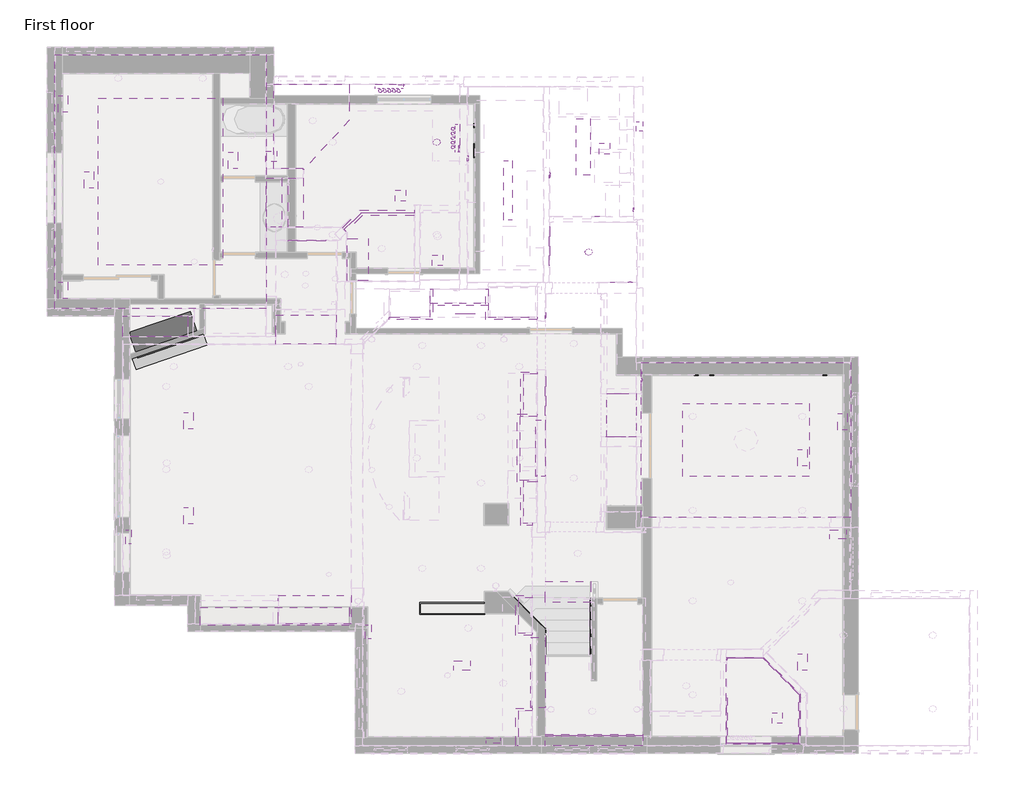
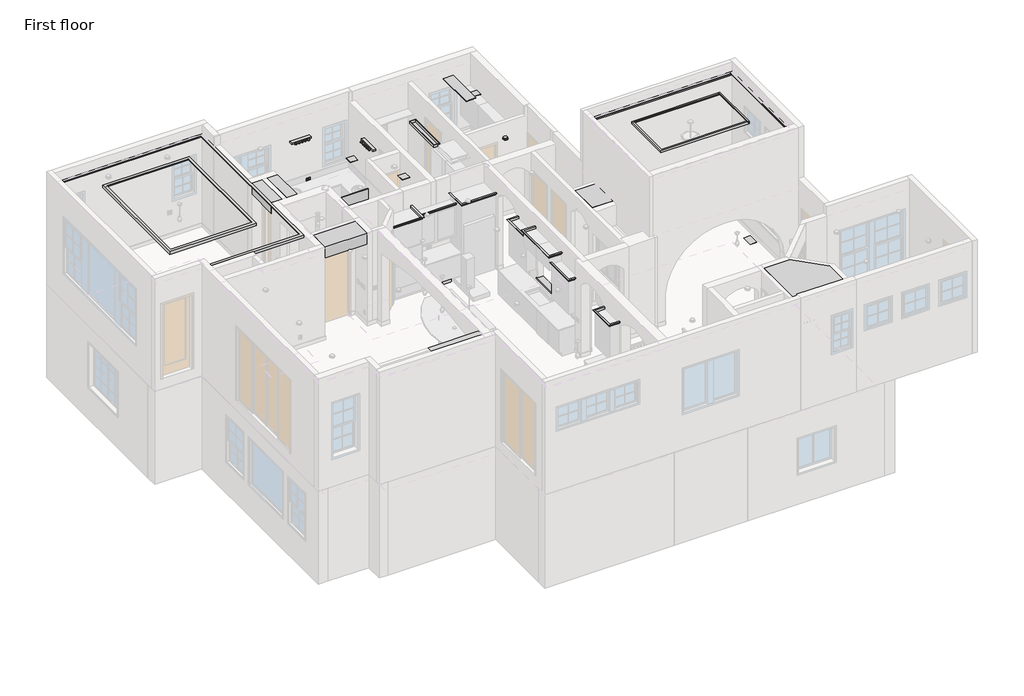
# One storey, part 14 of 14: 81 proxies, 5 light fixtures.
"""IFC4 building model written with IfcOpenShell, lengths in millimetres."""

from ifc_helpers import new_model, si_unit, origin, place, context, project, spatial, transform, mapped, element, save
from components import generic_models_7bf03cc9, ceiling_duct_ceiling_duct_6f59f6e1, ceiling_duct_ceiling_duct_531b3f96, floor_duct_floor_duct_57648b96, floor_duct_floor_duct_5fbc8d91, generic_models_10_generic_models_10_af9f11de, generic_models_11_generic_models_11_a00f24be, generic_models_12_generic_models_12_cab37b76, generic_models_14_generic_models_5_a837a2eb, generic_models_15_generic_models_15_c705246f, generic_models_16_generic_models_16_883335f0, generic_models_20_generic_models_20_f8ca420b, generic_models_21_generic_models_20_657df800, generic_models_23_generic_models_16_b66dae09, generic_models_24_generic_models_24_3cd4313f, generic_models_25_generic_models_23_44e64f11, generic_models_28_generic_models_28_aea4ba27, generic_models_29_generic_models_28_72c6995c, generic_models_3_generic_models_3_e1b9b177, generic_models_30_generic_models_30_4a146c5c, generic_models_31_generic_models_28_6c951476, generic_models_32_generic_models_28_5d53510e, generic_models_33_generic_models_28_1d8a5abb, generic_models_34_generic_models_28_84c8c996, generic_models_35_generic_models_28_821b1100, generic_models_36_generic_models_28_87b564ec, generic_models_37_generic_models_37_c2957d25, generic_models_38_generic_models_38_c5c5c476, generic_models_4_generic_models_4_8fbb5af6, generic_models_47_generic_models_5_366e64f6, generic_models_52_generic_models_52_cda593ee, generic_models_56_generic_models_56_30653bff, generic_models_59_generic_models_59_f5cc367f, generic_models_60_generic_models_59_80c58292, generic_models_61_generic_models_61_dfe6170b, generic_models_64_generic_models_64_f3553388, generic_models_65_generic_models_65_03acef7a, generic_models_66_generic_models_66_cc2a3090, generic_models_67_generic_models_67_35788e7a, generic_models_68_generic_models_68_d109ae78, generic_models_7_generic_models_7_fadefc11, generic_models_8_generic_models_8_df820373, generic_models_9_generic_models_9_1c03b8d7, generic_01_generic_01_19449866, generic_02_generic_02_b9079739, generic_02_generic_02_cc76fdf7, generic_02_generic_02_913d4e3a, switch_1_switch_1_61bf59a5, switch_15_switch_15_8019c705, switch_3_switch_3_40792009, switch_4_switch_4_f86bb9e3, switch_6_switch_6_ad3d04ee, wall_duct_wall_duct_054670dc, wall_duct_wall_duct_2bb27d55, wall_duct_wall_duct_0e01770b, wall_duct_wall_duct_ddb6b5c5, light_8_5fd1197a, lighting_fixtures_ceiling_linear_light_11_ba4d53ce, m_recessed_lamp_round_led_light_2_4ee42974

model = new_model("IFC4")

# Units and contexts
model_context = context("Model", 3, world=origin())
ifc_project = project(units=[si_unit("LENGTHUNIT", "METRE", prefix="MILLI")], contexts=[model_context])

# Site, building, storey
site = spatial("IfcSite", under=ifc_project)
building = spatial("IfcBuilding", under=site)
storey = spatial("IfcBuildingStorey", under=building, Name="First floor", Elevation=0.0)

# Proxies
placement = place(None, origin())
generic_models_shape = generic_models_7bf03cc9(model_context)
element("IfcBuildingElementProxy", 1, Name="Wall void 1  : Wall void 1 ", ObjectType="Wall void 1  : Wall void 1 ", at=placement, inside=storey, context=model_context, shape_type="MappedRepresentation", body=[
    mapped(generic_models_shape, transform((6115.05, 13336.8947939, 4191.0), x_axis=(0.0, 1.0, 0.0), y_axis=(-1.0, 0.0, 0.0), z_axis=(0.0, 0.0, 1.0))),
])
ceiling_duct_ceiling_duct_shape = ceiling_duct_ceiling_duct_6f59f6e1(model_context)
element("IfcBuildingElementProxy", 2, Name="Ceiling Duct : Ceiling Duct", ObjectType="Ceiling Duct : Ceiling Duct", at=placement, inside=storey, context=model_context, shape_type="MappedRepresentation", body=[
    mapped(ceiling_duct_ceiling_duct_shape, transform((9563.1, 6223.0, 2565.4), x_axis=(0.0, 1.0, 0.0), y_axis=(-1.0, 0.0, 0.0), z_axis=(0.0, 0.0, 1.0))),
])
element("IfcBuildingElementProxy", 3, Name="Ceiling Duct : Ceiling Duct", ObjectType="Ceiling Duct : Ceiling Duct", at=placement, inside=storey, context=model_context, shape_type="MappedRepresentation", body=[
    mapped(ceiling_duct_ceiling_duct_shape, transform((9563.1, 1803.4, 2565.4), x_axis=(0.0, 1.0, 0.0), y_axis=(-1.0, 0.0, 0.0), z_axis=(0.0, 0.0, 1.0))),
])
element("IfcBuildingElementProxy", 4, Name="Ceiling Duct : Ceiling Duct", ObjectType="Ceiling Duct : Ceiling Duct", at=placement, inside=storey, context=model_context, shape_type="MappedRepresentation", body=[
    mapped(ceiling_duct_ceiling_duct_shape, transform((-3708.4, 7023.1, 2565.4), x_axis=(0.0, 1.0, 0.0), y_axis=(-1.0, 0.0, 0.0), z_axis=(0.0, 0.0, 1.0))),
])
element("IfcBuildingElementProxy", 5, Name="Ceiling Duct : Ceiling Duct", ObjectType="Ceiling Duct : Ceiling Duct", at=placement, inside=storey, context=model_context, shape_type="MappedRepresentation", body=[
    mapped(ceiling_duct_ceiling_duct_shape, transform((-3708.4, 4965.7, 2565.4), x_axis=(0.0, 1.0, 0.0), y_axis=(-1.0, 0.0, 0.0), z_axis=(0.0, 0.0, 1.0))),
])
element("IfcBuildingElementProxy", 6, Name="Ceiling Duct : Ceiling Duct", ObjectType="Ceiling Duct : Ceiling Duct", at=placement, inside=storey, context=model_context, shape_type="MappedRepresentation", body=[
    mapped(ceiling_duct_ceiling_duct_shape, transform((-5854.7, 12230.1, 2565.4), x_axis=(0.0, 1.0, 0.0), y_axis=(-1.0, 0.0, 0.0), z_axis=(0.0, 0.0, 1.0))),
])
element("IfcBuildingElementProxy", 7, Name="Ceiling Duct : Ceiling Duct", ObjectType="Ceiling Duct : Ceiling Duct", at=placement, inside=storey, context=model_context, shape_type="MappedRepresentation", body=[
    mapped(ceiling_duct_ceiling_duct_shape, transform((-2743.2, 12649.2, 2565.4), x_axis=(0.0, 1.0, 0.0), y_axis=(-1.0, 0.0, 0.0), z_axis=(0.0, 0.0, 1.0))),
])
element("IfcBuildingElementProxy", 8, Name="Ceiling Duct : Ceiling Duct", ObjectType="Ceiling Duct : Ceiling Duct", at=placement, inside=storey, context=model_context, shape_type="MappedRepresentation", body=[
    mapped(ceiling_duct_ceiling_duct_shape, transform((2489.2, 1797.05, 2565.4), x_axis=(-1.0, 0.0, 0.0), y_axis=(0.0, -1.0, 0.0), z_axis=(0.0, 0.0, 1.0))),
])
ceiling_duct_ceiling_duct_2_shape = ceiling_duct_ceiling_duct_531b3f96(model_context)
element("IfcBuildingElementProxy", 9, Name="Ceiling Duct : Ceiling Duct", ObjectType="Ceiling Duct : Ceiling Duct", at=placement, inside=storey, context=model_context, shape_type="MappedRepresentation", body=[
    mapped(ceiling_duct_ceiling_duct_2_shape, transform((-1930.4, 12801.6, 2565.4), x_axis=(0.0, 1.0, 0.0), y_axis=(-1.0, 0.0, 0.0), z_axis=(0.0, 0.0, 1.0))),
])
element("IfcBuildingElementProxy", 10, Name="Ceiling Duct : Ceiling Duct", ObjectType="Ceiling Duct : Ceiling Duct", at=placement, inside=storey, context=model_context, shape_type="MappedRepresentation", body=[
    mapped(ceiling_duct_ceiling_duct_2_shape, transform((863.6, 12179.1947939, 6299.2), x_axis=(1.0, 0.0, 0.0), y_axis=(0.0, 1.0, 0.0), z_axis=(0.0, 0.0, 1.0))),
])
element("IfcBuildingElementProxy", 11, Name="Ceiling Duct : Ceiling Duct", ObjectType="Ceiling Duct : Ceiling Duct", at=placement, inside=storey, context=model_context, shape_type="MappedRepresentation", body=[
    mapped(ceiling_duct_ceiling_duct_2_shape, transform((1663.7, 10782.1947939, 6299.2), x_axis=(1.0, 0.0, 0.0), y_axis=(0.0, 1.0, 0.0), z_axis=(0.0, 0.0, 1.0))),
])
floor_duct_floor_duct_shape = floor_duct_floor_duct_57648b96(model_context)
element("IfcBuildingElementProxy", 12, Name="Floor Duct : Floor Duct", ObjectType="Floor Duct : Floor Duct", at=placement, inside=storey, context=model_context, shape_type="MappedRepresentation", body=[
    mapped(floor_duct_floor_duct_shape, transform((-6318.25, 14046.193904, 3251.2), x_axis=(0.0, 1.0, 0.0), y_axis=(-1.0, 0.0, 0.0), z_axis=(0.0, 0.0, 1.0))),
])
element("IfcBuildingElementProxy", 13, Name="Floor Duct : Floor Duct", ObjectType="Floor Duct : Floor Duct", at=placement, inside=storey, context=model_context, shape_type="MappedRepresentation", body=[
    mapped(floor_duct_floor_duct_shape, transform((-6318.25, 10020.3, 3251.2), x_axis=(0.0, 1.0, 0.0), y_axis=(-1.0, 0.0, 0.0), z_axis=(0.0, 0.0, 1.0))),
])
floor_duct_floor_duct_2_shape = floor_duct_floor_duct_5fbc8d91(model_context)
element("IfcBuildingElementProxy", 14, Name="Floor Duct : Floor Duct", ObjectType="Floor Duct : Floor Duct", at=placement, inside=storey, context=model_context, shape_type="MappedRepresentation", body=[
    mapped(floor_duct_floor_duct_2_shape, transform((2984.5, 279.4, 3251.2), x_axis=(1.0, 0.0, 0.0), y_axis=(0.0, 1.0, 0.0), z_axis=(0.0, 0.0, 1.0))),
])
element("IfcBuildingElementProxy", 15, Name="Floor Duct : Floor Duct", ObjectType="Floor Duct : Floor Duct", at=placement, inside=storey, context=model_context, shape_type="MappedRepresentation", body=[
    mapped(floor_duct_floor_duct_2_shape, transform((279.4, 2628.9, 3251.2), x_axis=(0.0, 1.0, 0.0), y_axis=(-1.0, 0.0, 0.0), z_axis=(0.0, 0.0, 1.0))),
])
generic_models_10_generic_models_10_shape = generic_models_10_generic_models_10_af9f11de(model_context)
element("IfcBuildingElementProxy", 16, Name="Generic Models 10 : Generic Models 10", ObjectType="Generic Models 10 : Generic Models 10", at=placement, inside=storey, context=model_context, shape_type="MappedRepresentation", body=[
    mapped(generic_models_10_generic_models_10_shape, transform((0.0, 0.0, 0.0), x_axis=(1.0, 0.0, 0.0), y_axis=(0.0, 1.0, 0.0), z_axis=(0.0, 0.0, 1.0))),
])
generic_models_11_generic_models_11_shape = generic_models_11_generic_models_11_a00f24be(model_context)
element("IfcBuildingElementProxy", 17, Name="Generic Models 11 : Generic Models 11", ObjectType="Generic Models 11 : Generic Models 11", at=placement, inside=storey, context=model_context, shape_type="MappedRepresentation", body=[
    mapped(generic_models_11_generic_models_11_shape, transform((0.0, 0.0, 0.0), x_axis=(1.0, 0.0, 0.0), y_axis=(0.0, 1.0, 0.0), z_axis=(0.0, 0.0, 1.0))),
])
generic_models_12_generic_models_12_shape = generic_models_12_generic_models_12_cab37b76(model_context)
element("IfcBuildingElementProxy", 18, Name="Generic Models 12 : Generic Models 12", ObjectType="Generic Models 12 : Generic Models 12", at=placement, inside=storey, context=model_context, shape_type="MappedRepresentation", body=[
    mapped(generic_models_12_generic_models_12_shape, transform((0.0, 0.0, 0.0), x_axis=(1.0, 0.0, 0.0), y_axis=(0.0, 1.0, 0.0), z_axis=(0.0, 0.0, 1.0))),
])
generic_models_14_generic_models_5_shape = generic_models_14_generic_models_5_a837a2eb(model_context)
element("IfcBuildingElementProxy", 19, Name="Generic Models 14 : Generic Models 5", ObjectType="Generic Models 14 : Generic Models 5", at=placement, inside=storey, context=model_context, shape_type="MappedRepresentation", body=[
    mapped(generic_models_14_generic_models_5_shape, transform((0.0, 0.0, 0.0), x_axis=(1.0, 0.0, 0.0), y_axis=(0.0, 1.0, 0.0), z_axis=(0.0, 0.0, 1.0))),
])
generic_models_15_generic_models_15_shape = generic_models_15_generic_models_15_c705246f(model_context)
element("IfcBuildingElementProxy", 20, Name="Generic Models 15 : Generic Models 15", ObjectType="Generic Models 15 : Generic Models 15", at=placement, inside=storey, context=model_context, shape_type="MappedRepresentation", body=[
    mapped(generic_models_15_generic_models_15_shape, transform((0.0, 0.0, 0.0), x_axis=(1.0, 0.0, 0.0), y_axis=(0.0, 1.0, 0.0), z_axis=(0.0, 0.0, 1.0))),
])
generic_models_16_generic_models_16_shape = generic_models_16_generic_models_16_883335f0(model_context)
element("IfcBuildingElementProxy", 21, Name="Generic Models 16 : Generic Models 16", ObjectType="Generic Models 16 : Generic Models 16", at=placement, inside=storey, context=model_context, shape_type="MappedRepresentation", body=[
    mapped(generic_models_16_generic_models_16_shape, transform((0.0, 0.0, 0.0), x_axis=(1.0, 0.0, 0.0), y_axis=(0.0, 1.0, 0.0), z_axis=(0.0, 0.0, 1.0))),
])
generic_models_20_generic_models_20_shape = generic_models_20_generic_models_20_f8ca420b(model_context)
element("IfcBuildingElementProxy", 22, Name="Generic Models 20 : Generic Models 20", ObjectType="Generic Models 20 : Generic Models 20", at=placement, inside=storey, context=model_context, shape_type="MappedRepresentation", body=[
    mapped(generic_models_20_generic_models_20_shape, transform((0.0, 0.0, 0.0), x_axis=(1.0, 0.0, 0.0), y_axis=(0.0, 1.0, 0.0), z_axis=(0.0, 0.0, 1.0))),
])
generic_models_21_generic_models_20_shape = generic_models_21_generic_models_20_657df800(model_context)
element("IfcBuildingElementProxy", 23, Name="Generic Models 21 : Generic Models 20", ObjectType="Generic Models 21 : Generic Models 20", at=placement, inside=storey, context=model_context, shape_type="MappedRepresentation", body=[
    mapped(generic_models_21_generic_models_20_shape, transform((0.0, 0.0, 0.0), x_axis=(1.0, 0.0, 0.0), y_axis=(0.0, 1.0, 0.0), z_axis=(0.0, 0.0, 1.0))),
])
generic_models_23_generic_models_16_shape = generic_models_23_generic_models_16_b66dae09(model_context)
element("IfcBuildingElementProxy", 24, Name="Generic Models 23 : Generic Models 16", ObjectType="Generic Models 23 : Generic Models 16", at=placement, inside=storey, context=model_context, shape_type="MappedRepresentation", body=[
    mapped(generic_models_23_generic_models_16_shape, transform((0.0, 0.0, 0.0), x_axis=(1.0, 0.0, 0.0), y_axis=(0.0, 1.0, 0.0), z_axis=(0.0, 0.0, 1.0))),
])
generic_models_24_generic_models_24_shape = generic_models_24_generic_models_24_3cd4313f(model_context)
element("IfcBuildingElementProxy", 25, Name="Generic Models 24 : Generic Models 24", ObjectType="Generic Models 24 : Generic Models 24", at=placement, inside=storey, context=model_context, shape_type="MappedRepresentation", body=[
    mapped(generic_models_24_generic_models_24_shape, transform((0.0, 0.0, 0.0), x_axis=(1.0, 0.0, 0.0), y_axis=(0.0, 1.0, 0.0), z_axis=(0.0, 0.0, 1.0))),
])
generic_models_25_generic_models_23_shape = generic_models_25_generic_models_23_44e64f11(model_context)
element("IfcBuildingElementProxy", 26, Name="Generic Models 25 : Generic Models 23", ObjectType="Generic Models 25 : Generic Models 23", at=placement, inside=storey, context=model_context, shape_type="MappedRepresentation", body=[
    mapped(generic_models_25_generic_models_23_shape, transform((0.0, 0.0, 0.0), x_axis=(1.0, 0.0, 0.0), y_axis=(0.0, 1.0, 0.0), z_axis=(0.0, 0.0, 1.0))),
])
generic_models_28_generic_models_28_shape = generic_models_28_generic_models_28_aea4ba27(model_context)
element("IfcBuildingElementProxy", 27, Name="Generic Models 28 : Generic Models 28", ObjectType="Generic Models 28 : Generic Models 28", at=placement, inside=storey, context=model_context, shape_type="MappedRepresentation", body=[
    mapped(generic_models_28_generic_models_28_shape, transform((0.0, 0.0, 0.0), x_axis=(1.0, 0.0, 0.0), y_axis=(0.0, 1.0, 0.0), z_axis=(0.0, 0.0, 1.0))),
])
generic_models_29_generic_models_28_shape = generic_models_29_generic_models_28_72c6995c(model_context)
element("IfcBuildingElementProxy", 28, Name="Generic Models 29 : Generic Models 28", ObjectType="Generic Models 29 : Generic Models 28", at=placement, inside=storey, context=model_context, shape_type="MappedRepresentation", body=[
    mapped(generic_models_29_generic_models_28_shape, transform((0.0, 0.0, 0.0), x_axis=(1.0, 0.0, 0.0), y_axis=(0.0, 1.0, 0.0), z_axis=(0.0, 0.0, 1.0))),
])
generic_models_3_generic_models_3_shape = generic_models_3_generic_models_3_e1b9b177(model_context)
element("IfcBuildingElementProxy", 29, Name="Generic Models 3 : Generic Models 3", ObjectType="Generic Models 3 : Generic Models 3", at=placement, inside=storey, context=model_context, shape_type="MappedRepresentation", body=[
    mapped(generic_models_3_generic_models_3_shape, transform((0.0, 0.0, 0.0), x_axis=(1.0, 0.0, 0.0), y_axis=(0.0, 1.0, 0.0), z_axis=(0.0, 0.0, 1.0))),
])
generic_models_30_generic_models_30_shape = generic_models_30_generic_models_30_4a146c5c(model_context)
element("IfcBuildingElementProxy", 30, Name="Generic Models 30 : Generic Models 30", ObjectType="Generic Models 30 : Generic Models 30", at=placement, inside=storey, context=model_context, shape_type="MappedRepresentation", body=[
    mapped(generic_models_30_generic_models_30_shape, transform((0.0, 0.0, 0.0), x_axis=(1.0, 0.0, 0.0), y_axis=(0.0, 1.0, 0.0), z_axis=(0.0, 0.0, 1.0))),
])
generic_models_31_generic_models_28_shape = generic_models_31_generic_models_28_6c951476(model_context)
element("IfcBuildingElementProxy", 31, Name="Generic Models 31 : Generic Models 28", ObjectType="Generic Models 31 : Generic Models 28", at=placement, inside=storey, context=model_context, shape_type="MappedRepresentation", body=[
    mapped(generic_models_31_generic_models_28_shape, transform((0.0, 0.0, 0.0), x_axis=(1.0, 0.0, 0.0), y_axis=(0.0, 1.0, 0.0), z_axis=(0.0, 0.0, 1.0))),
])
generic_models_32_generic_models_28_shape = generic_models_32_generic_models_28_5d53510e(model_context)
element("IfcBuildingElementProxy", 32, Name="Generic Models 32 : Generic Models 28", ObjectType="Generic Models 32 : Generic Models 28", at=placement, inside=storey, context=model_context, shape_type="MappedRepresentation", body=[
    mapped(generic_models_32_generic_models_28_shape, transform((0.0, 0.0, 0.0), x_axis=(1.0, 0.0, 0.0), y_axis=(0.0, 1.0, 0.0), z_axis=(0.0, 0.0, 1.0))),
])
generic_models_33_generic_models_28_shape = generic_models_33_generic_models_28_1d8a5abb(model_context)
element("IfcBuildingElementProxy", 33, Name="Generic Models 33 : Generic Models 28", ObjectType="Generic Models 33 : Generic Models 28", at=placement, inside=storey, context=model_context, shape_type="MappedRepresentation", body=[
    mapped(generic_models_33_generic_models_28_shape, transform((0.0, 0.0, 0.0), x_axis=(1.0, 0.0, 0.0), y_axis=(0.0, 1.0, 0.0), z_axis=(0.0, 0.0, 1.0))),
])
generic_models_34_generic_models_28_shape = generic_models_34_generic_models_28_84c8c996(model_context)
element("IfcBuildingElementProxy", 34, Name="Generic Models 34 : Generic Models 28", ObjectType="Generic Models 34 : Generic Models 28", at=placement, inside=storey, context=model_context, shape_type="MappedRepresentation", body=[
    mapped(generic_models_34_generic_models_28_shape, transform((0.0, 0.0, 0.0), x_axis=(1.0, 0.0, 0.0), y_axis=(0.0, 1.0, 0.0), z_axis=(0.0, 0.0, 1.0))),
])
generic_models_35_generic_models_28_shape = generic_models_35_generic_models_28_821b1100(model_context)
element("IfcBuildingElementProxy", 35, Name="Generic Models 35 : Generic Models 28", ObjectType="Generic Models 35 : Generic Models 28", at=placement, inside=storey, context=model_context, shape_type="MappedRepresentation", body=[
    mapped(generic_models_35_generic_models_28_shape, transform((0.0, 0.0, 0.0), x_axis=(1.0, 0.0, 0.0), y_axis=(0.0, 1.0, 0.0), z_axis=(0.0, 0.0, 1.0))),
])
generic_models_36_generic_models_28_shape = generic_models_36_generic_models_28_87b564ec(model_context)
element("IfcBuildingElementProxy", 36, Name="Generic Models 36 : Generic Models 28", ObjectType="Generic Models 36 : Generic Models 28", at=placement, inside=storey, context=model_context, shape_type="MappedRepresentation", body=[
    mapped(generic_models_36_generic_models_28_shape, transform((0.0, 0.0, 0.0), x_axis=(1.0, 0.0, 0.0), y_axis=(0.0, 1.0, 0.0), z_axis=(0.0, 0.0, 1.0))),
])
generic_models_37_generic_models_37_shape = generic_models_37_generic_models_37_c2957d25(model_context)
element("IfcBuildingElementProxy", 37, Name="Generic Models 37 : Generic Models 37", ObjectType="Generic Models 37 : Generic Models 37", at=placement, inside=storey, context=model_context, shape_type="MappedRepresentation", body=[
    mapped(generic_models_37_generic_models_37_shape, transform((0.0, 0.0, 0.0), x_axis=(1.0, 0.0, 0.0), y_axis=(0.0, 1.0, 0.0), z_axis=(0.0, 0.0, 1.0))),
])
generic_models_38_generic_models_38_shape = generic_models_38_generic_models_38_c5c5c476(model_context)
element("IfcBuildingElementProxy", 38, Name="Generic Models 38 : Generic Models 38", ObjectType="Generic Models 38 : Generic Models 38", at=placement, inside=storey, context=model_context, shape_type="MappedRepresentation", body=[
    mapped(generic_models_38_generic_models_38_shape, transform((0.0, 0.0, 0.0), x_axis=(1.0, 0.0, 0.0), y_axis=(0.0, 1.0, 0.0), z_axis=(0.0, 0.0, 1.0))),
])
generic_models_4_generic_models_4_shape = generic_models_4_generic_models_4_8fbb5af6(model_context)
element("IfcBuildingElementProxy", 39, Name="Generic Models 4 : Generic Models 4", ObjectType="Generic Models 4 : Generic Models 4", at=placement, inside=storey, context=model_context, shape_type="MappedRepresentation", body=[
    mapped(generic_models_4_generic_models_4_shape, transform((0.0, 0.0, 0.0), x_axis=(1.0, 0.0, 0.0), y_axis=(0.0, 1.0, 0.0), z_axis=(0.0, 0.0, 1.0))),
])
generic_models_47_generic_models_5_shape = generic_models_47_generic_models_5_366e64f6(model_context)
element("IfcBuildingElementProxy", 40, Name="Generic Models 47 : Generic Models 5", ObjectType="Generic Models 47 : Generic Models 5", at=placement, inside=storey, context=model_context, shape_type="MappedRepresentation", body=[
    mapped(generic_models_47_generic_models_5_shape, transform((0.0, 0.0, 0.0), x_axis=(1.0, 0.0, 0.0), y_axis=(0.0, 1.0, 0.0), z_axis=(0.0, 0.0, 1.0))),
])
generic_models_52_generic_models_52_shape = generic_models_52_generic_models_52_cda593ee(model_context)
element("IfcBuildingElementProxy", 41, Name="Generic Models 52 : Generic Models 52", ObjectType="Generic Models 52 : Generic Models 52", at=placement, inside=storey, context=model_context, shape_type="MappedRepresentation", body=[
    mapped(generic_models_52_generic_models_52_shape, transform((0.0, 0.0, 0.0), x_axis=(1.0, 0.0, 0.0), y_axis=(0.0, 1.0, 0.0), z_axis=(0.0, 0.0, 1.0))),
])
generic_models_56_generic_models_56_shape = generic_models_56_generic_models_56_30653bff(model_context)
element("IfcBuildingElementProxy", 42, Name="Generic Models 56 : Generic Models 56", ObjectType="Generic Models 56 : Generic Models 56", at=placement, inside=storey, context=model_context, shape_type="MappedRepresentation", body=[
    mapped(generic_models_56_generic_models_56_shape, transform((0.0, 0.0, 0.0), x_axis=(1.0, 0.0, 0.0), y_axis=(0.0, 1.0, 0.0), z_axis=(0.0, 0.0, 1.0))),
])
generic_models_59_generic_models_59_shape = generic_models_59_generic_models_59_f5cc367f(model_context)
element("IfcBuildingElementProxy", 43, Name="Generic Models 59 : Generic Models 59", ObjectType="Generic Models 59 : Generic Models 59", at=placement, inside=storey, context=model_context, shape_type="MappedRepresentation", body=[
    mapped(generic_models_59_generic_models_59_shape, transform((0.0, 0.0, 0.0), x_axis=(1.0, 0.0, 0.0), y_axis=(0.0, 1.0, 0.0), z_axis=(0.0, 0.0, 1.0))),
])
generic_models_60_generic_models_59_shape = generic_models_60_generic_models_59_80c58292(model_context)
element("IfcBuildingElementProxy", 44, Name="Generic Models 60 : Generic Models 59", ObjectType="Generic Models 60 : Generic Models 59", at=placement, inside=storey, context=model_context, shape_type="MappedRepresentation", body=[
    mapped(generic_models_60_generic_models_59_shape, transform((0.0, 0.0, 0.0), x_axis=(1.0, 0.0, 0.0), y_axis=(0.0, 1.0, 0.0), z_axis=(0.0, 0.0, 1.0))),
])
generic_models_61_generic_models_61_shape = generic_models_61_generic_models_61_dfe6170b(model_context)
element("IfcBuildingElementProxy", 45, Name="Generic Models 61 : Generic Models 61", ObjectType="Generic Models 61 : Generic Models 61", at=placement, inside=storey, context=model_context, shape_type="MappedRepresentation", body=[
    mapped(generic_models_61_generic_models_61_shape, transform((0.0, 0.0, 0.0), x_axis=(1.0, 0.0, 0.0), y_axis=(0.0, 1.0, 0.0), z_axis=(0.0, 0.0, 1.0))),
])
generic_models_64_generic_models_64_shape = generic_models_64_generic_models_64_f3553388(model_context)
element("IfcBuildingElementProxy", 46, Name="Generic Models 64 : Generic Models 64", ObjectType="Generic Models 64 : Generic Models 64", at=placement, inside=storey, context=model_context, shape_type="MappedRepresentation", body=[
    mapped(generic_models_64_generic_models_64_shape, transform((0.0, 0.0, 0.0), x_axis=(1.0, 0.0, 0.0), y_axis=(0.0, 1.0, 0.0), z_axis=(0.0, 0.0, 1.0))),
])
generic_models_65_generic_models_65_shape = generic_models_65_generic_models_65_03acef7a(model_context)
element("IfcBuildingElementProxy", 47, Name="Generic Models 65 : Generic Models 65", ObjectType="Generic Models 65 : Generic Models 65", at=placement, inside=storey, context=model_context, shape_type="MappedRepresentation", body=[
    mapped(generic_models_65_generic_models_65_shape, transform((0.0, 0.0, 0.0), x_axis=(1.0, 0.0, 0.0), y_axis=(0.0, 1.0, 0.0), z_axis=(0.0, 0.0, 1.0))),
])
generic_models_66_generic_models_66_shape = generic_models_66_generic_models_66_cc2a3090(model_context)
element("IfcBuildingElementProxy", 48, Name="Generic Models 66 : Generic Models 66", ObjectType="Generic Models 66 : Generic Models 66", at=placement, inside=storey, context=model_context, shape_type="MappedRepresentation", body=[
    mapped(generic_models_66_generic_models_66_shape, transform((0.0, 0.0, 0.0), x_axis=(1.0, 0.0, 0.0), y_axis=(0.0, 1.0, 0.0), z_axis=(0.0, 0.0, 1.0))),
])
generic_models_67_generic_models_67_shape = generic_models_67_generic_models_67_35788e7a(model_context)
element("IfcBuildingElementProxy", 49, Name="Generic Models 67 : Generic Models 67", ObjectType="Generic Models 67 : Generic Models 67", at=placement, inside=storey, context=model_context, shape_type="MappedRepresentation", body=[
    mapped(generic_models_67_generic_models_67_shape, transform((0.0, 0.0, 0.0), x_axis=(1.0, 0.0, 0.0), y_axis=(0.0, 1.0, 0.0), z_axis=(0.0, 0.0, 1.0))),
])
generic_models_68_generic_models_68_shape = generic_models_68_generic_models_68_d109ae78(model_context)
element("IfcBuildingElementProxy", 50, Name="Generic Models 68 : Generic Models 68", ObjectType="Generic Models 68 : Generic Models 68", at=placement, inside=storey, context=model_context, shape_type="MappedRepresentation", body=[
    mapped(generic_models_68_generic_models_68_shape, transform((0.0, 0.0, 0.0), x_axis=(1.0, 0.0, 0.0), y_axis=(0.0, 1.0, 0.0), z_axis=(0.0, 0.0, 1.0))),
])
generic_models_7_generic_models_7_shape = generic_models_7_generic_models_7_fadefc11(model_context)
element("IfcBuildingElementProxy", 51, Name="Generic Models 7 : Generic Models 7", ObjectType="Generic Models 7 : Generic Models 7", at=placement, inside=storey, context=model_context, shape_type="MappedRepresentation", body=[
    mapped(generic_models_7_generic_models_7_shape, transform((0.0, 0.0, 0.0), x_axis=(1.0, 0.0, 0.0), y_axis=(0.0, 1.0, 0.0), z_axis=(0.0, 0.0, 1.0))),
])
generic_models_8_generic_models_8_shape = generic_models_8_generic_models_8_df820373(model_context)
element("IfcBuildingElementProxy", 52, Name="Generic Models 8 : Generic Models 8", ObjectType="Generic Models 8 : Generic Models 8", at=placement, inside=storey, context=model_context, shape_type="MappedRepresentation", body=[
    mapped(generic_models_8_generic_models_8_shape, transform((0.0, 0.0, 0.0), x_axis=(1.0, 0.0, 0.0), y_axis=(0.0, 1.0, 0.0), z_axis=(0.0, 0.0, 1.0))),
])
generic_models_9_generic_models_9_shape = generic_models_9_generic_models_9_1c03b8d7(model_context)
element("IfcBuildingElementProxy", 53, Name="Generic Models 9 : Generic Models 9", ObjectType="Generic Models 9 : Generic Models 9", at=placement, inside=storey, context=model_context, shape_type="MappedRepresentation", body=[
    mapped(generic_models_9_generic_models_9_shape, transform((0.0, 0.0, 0.0), x_axis=(1.0, 0.0, 0.0), y_axis=(0.0, 1.0, 0.0), z_axis=(0.0, 0.0, 1.0))),
])
generic_01_generic_01_shape = generic_01_generic_01_19449866(model_context)
element("IfcBuildingElementProxy", 54, Name="Generic_01 : Generic_01", ObjectType="Generic_01 : Generic_01", at=placement, inside=storey, context=model_context, shape_type="MappedRepresentation", body=[
    mapped(generic_01_generic_01_shape, transform((5645.15, 7784.9947939, 3441.7), x_axis=(1.0, 0.0, 0.0), y_axis=(0.0, 1.0, 0.0), z_axis=(0.0, 0.0, 1.0))),
])
element("IfcBuildingElementProxy", 55, Name="Generic_01 : Generic_01", ObjectType="Generic_01 : Generic_01", at=placement, inside=storey, context=model_context, shape_type="MappedRepresentation", body=[
    mapped(generic_01_generic_01_shape, transform((5632.45, 6857.8947939, 3441.7), x_axis=(1.0, 0.0, 0.0), y_axis=(0.0, 1.0, 0.0), z_axis=(0.0, 0.0, 1.0))),
])
generic_02_generic_02_shape = generic_02_generic_02_b9079739(model_context)
element("IfcBuildingElementProxy", 56, Name="Generic_02 : Generic_02", ObjectType="Generic_02 : Generic_02", at=placement, inside=storey, context=model_context, shape_type="MappedRepresentation", body=[
    mapped(generic_02_generic_02_shape, transform((10426.7, 7351.476362, 3257.55), x_axis=(1.0, 0.0, 0.0), y_axis=(0.0, 1.0, 0.0), z_axis=(0.0, 0.0, 1.0))),
])
element("IfcBuildingElementProxy", 57, Name="Generic_02 : Generic_02", ObjectType="Generic_02 : Generic_02", at=placement, inside=storey, context=model_context, shape_type="MappedRepresentation", body=[
    mapped(generic_02_generic_02_shape, transform((10261.6, 4635.5001027, 3257.55), x_axis=(0.0, 1.0, 0.0), y_axis=(-1.0, 0.0, 0.0), z_axis=(0.0, 0.0, 1.0))),
])
generic_02_generic_02_2_shape = generic_02_generic_02_cc76fdf7(model_context)
element("IfcBuildingElementProxy", 58, Name="Generic_02 : Generic_02", ObjectType="Generic_02 : Generic_02", at=placement, inside=storey, context=model_context, shape_type="MappedRepresentation", body=[
    mapped(generic_02_generic_02_2_shape, transform((9009.85625, 876.3, 5956.3), x_axis=(1.0, 0.0, 0.0), y_axis=(0.0, 1.0, 0.0), z_axis=(0.0, 0.0, 1.0))),
])
generic_02_generic_02_3_shape = generic_02_generic_02_913d4e3a(model_context)
element("IfcBuildingElementProxy", 59, Name="Generic_02 : Generic_02", ObjectType="Generic_02 : Generic_02", at=placement, inside=storey, context=model_context, shape_type="MappedRepresentation", body=[
    mapped(generic_02_generic_02_3_shape, transform((5270.5, 13195.1947939, 6299.2), x_axis=(1.0, 0.0, 0.0), y_axis=(0.0, 1.0, 0.0), z_axis=(0.0, 0.0, 1.0))),
])
element("IfcBuildingElementProxy", 60, Name="Generic_03 : Generic_03", ObjectType="Generic_03 : Generic_03", at=placement, inside=storey, context=model_context, shape_type="MappedRepresentation", body=[
    mapped(floor_duct_floor_duct_2_shape, transform((-4902.2, 4686.3, 3251.2), x_axis=(0.0, 1.0, 0.0), y_axis=(-1.0, 0.0, 0.0), z_axis=(0.0, 0.0, 1.0))),
])
switch_1_switch_1_shape = switch_1_switch_1_61bf59a5(model_context)
element("IfcBuildingElementProxy", 61, Name="Switch 1 : Switch 1", ObjectType="Switch 1 : Switch 1", at=placement, inside=storey, context=model_context, shape_type="MappedRepresentation", body=[
    mapped(switch_1_switch_1_shape, transform((7707.113, 8191.5, 292.1), x_axis=(-1.0, 0.0, 0.0), y_axis=(0.0, -1.0, 0.0), z_axis=(0.0, 0.0, 1.0))),
])
element("IfcBuildingElementProxy", 62, Name="Switch 1 : Switch 1", ObjectType="Switch 1 : Switch 1", at=placement, inside=storey, context=model_context, shape_type="MappedRepresentation", body=[
    mapped(switch_1_switch_1_shape, transform((7059.4129991, 8458.2, 3556.0), x_axis=(-1.0, 0.0, 0.0), y_axis=(0.0, -1.0, 0.0), z_axis=(0.0, 0.0, 1.0))),
])
element("IfcBuildingElementProxy", 63, Name="Switch 1 : Switch 1", ObjectType="Switch 1 : Switch 1", at=placement, inside=storey, context=model_context, shape_type="MappedRepresentation", body=[
    mapped(switch_1_switch_1_shape, transform((6184.8999991, 8215.113, 4330.7), x_axis=(0.0, -1.0, 0.0), y_axis=(1.0, 0.0, 0.0), z_axis=(0.0, 0.0, 1.0))),
])
switch_15_switch_15_shape = switch_15_switch_15_8019c705(model_context)
element("IfcBuildingElementProxy", 64, Name="Switch 15 : Switch 15", ObjectType="Switch 15 : Switch 15", at=placement, inside=storey, context=model_context, shape_type="MappedRepresentation", body=[
    mapped(switch_15_switch_15_shape, transform((989.246, 14465.1947939, 4140.2), x_axis=(-1.0, 0.0, 0.0), y_axis=(0.0, -1.0, 0.0), z_axis=(0.0, 0.0, 1.0))),
])
element("IfcBuildingElementProxy", 65, Name="Switch 15 : Switch 15", ObjectType="Switch 15 : Switch 15", at=placement, inside=storey, context=model_context, shape_type="MappedRepresentation", body=[
    mapped(switch_15_switch_15_shape, transform((2247.9, 13094.9487939, 4140.2), x_axis=(0.0, 1.0, 0.0), y_axis=(-1.0, 0.0, 0.0), z_axis=(0.0, 0.0, 1.0))),
])
switch_3_switch_3_shape = switch_3_switch_3_40792009(model_context)
element("IfcBuildingElementProxy", 66, Name="Switch 3 : Switch 3", ObjectType="Switch 3 : Switch 3", at=placement, inside=storey, context=model_context, shape_type="MappedRepresentation", body=[
    mapped(switch_3_switch_3_shape, transform((6184.8999991, 8066.9728308, 4330.7), x_axis=(0.0, -1.0, 0.0), y_axis=(1.0, 0.0, 0.0), z_axis=(0.0, 0.0, 1.0))),
])
element("IfcBuildingElementProxy", 67, Name="Switch 3 : Switch 3", ObjectType="Switch 3 : Switch 3", at=placement, inside=storey, context=model_context, shape_type="MappedRepresentation", body=[
    mapped(switch_3_switch_3_shape, transform((5953.8271692, 10185.2947939, 4356.1), x_axis=(1.0, 0.0, 0.0), y_axis=(0.0, 1.0, 0.0), z_axis=(0.0, 0.0, 1.0))),
])
element("IfcBuildingElementProxy", 68, Name="Switch 3 : Switch 3", ObjectType="Switch 3 : Switch 3", at=placement, inside=storey, context=model_context, shape_type="MappedRepresentation", body=[
    mapped(switch_3_switch_3_shape, transform((5229.9271692, 11607.6947939, 4381.5), x_axis=(1.0, 0.0, 0.0), y_axis=(0.0, 1.0, 0.0), z_axis=(0.0, 0.0, 1.0))),
])
switch_4_switch_4_shape = switch_4_switch_4_f86bb9e3(model_context)
element("IfcBuildingElementProxy", 69, Name="Switch 4 : Switch 4", ObjectType="Switch 4 : Switch 4", at=placement, inside=storey, context=model_context, shape_type="MappedRepresentation", body=[
    mapped(switch_4_switch_4_shape, transform((7368.8470203, 8191.5, 292.1006729), x_axis=(-1.0, 0.0, 0.0), y_axis=(0.0, -1.0, 0.0), z_axis=(0.0, 0.0, 1.0))),
])
element("IfcBuildingElementProxy", 70, Name="Switch 4 : Switch 4", ObjectType="Switch 4 : Switch 4", at=placement, inside=storey, context=model_context, shape_type="MappedRepresentation", body=[
    mapped(switch_4_switch_4_shape, transform((10143.7970203, 8191.5, 292.1006729), x_axis=(-1.0, 0.0, 0.0), y_axis=(0.0, -1.0, 0.0), z_axis=(0.0, 0.0, 1.0))),
])
element("IfcBuildingElementProxy", 71, Name="Switch 4 : Switch 4", ObjectType="Switch 4 : Switch 4", at=placement, inside=storey, context=model_context, shape_type="MappedRepresentation", body=[
    mapped(switch_4_switch_4_shape, transform((2578.1, 13579.8029797, 292.1), x_axis=(0.0, 1.0, 0.0), y_axis=(-1.0, 0.0, 0.0), z_axis=(0.0, 0.0, 1.0))),
])
element("IfcBuildingElementProxy", 72, Name="Switch 4 : Switch 4", ObjectType="Switch 4 : Switch 4", at=placement, inside=storey, context=model_context, shape_type="MappedRepresentation", body=[
    mapped(switch_4_switch_4_shape, transform((5572.4529797, 10185.2947939, 3543.3006729), x_axis=(1.0, 0.0, 0.0), y_axis=(0.0, 1.0, 0.0), z_axis=(0.0, 0.0, 1.0))),
])
element("IfcBuildingElementProxy", 73, Name="Switch 4 : Switch 4", ObjectType="Switch 4 : Switch 4", at=placement, inside=storey, context=model_context, shape_type="MappedRepresentation", body=[
    mapped(switch_4_switch_4_shape, transform((6019.8, 11769.9477736, 4356.1006729), x_axis=(0.0, 1.0, 0.0), y_axis=(-1.0, 0.0, 0.0), z_axis=(0.0, 0.0, 1.0))),
])
switch_6_switch_6_shape = switch_6_switch_6_ad3d04ee(model_context)
element("IfcBuildingElementProxy", 74, Name="Switch 6 : Switch 6", ObjectType="Switch 6 : Switch 6", at=placement, inside=storey, context=model_context, shape_type="MappedRepresentation", body=[
    mapped(switch_6_switch_6_shape, transform((4102.1, 9472.6140439, 4318.0), x_axis=(0.0, -1.0, 0.0), y_axis=(1.0, 0.0, 0.0), z_axis=(0.0, 0.0, 1.0))),
])
element("IfcBuildingElementProxy", 75, Name="Switch 6 : Switch 6", ObjectType="Switch 6 : Switch 6", at=placement, inside=storey, context=model_context, shape_type="MappedRepresentation", body=[
    mapped(switch_6_switch_6_shape, transform((2425.7, 12869.8640439, 4254.5), x_axis=(0.0, -1.0, 0.0), y_axis=(1.0, 0.0, 0.0), z_axis=(0.0, 0.0, 1.0))),
])
element("IfcBuildingElementProxy", 76, Name="Switch 6 : Switch 6", ObjectType="Switch 6 : Switch 6", at=placement, inside=storey, context=model_context, shape_type="MappedRepresentation", body=[
    mapped(switch_6_switch_6_shape, transform((4191.0, 12507.9140439, 4381.5), x_axis=(0.0, -1.0, 0.0), y_axis=(1.0, 0.0, 0.0), z_axis=(0.0, 0.0, 1.0))),
])
wall_duct_wall_duct_shape = wall_duct_wall_duct_054670dc(model_context)
element("IfcBuildingElementProxy", 77, Name="Wall Duct : Wall Duct", ObjectType="Wall Duct : Wall Duct", at=placement, inside=storey, context=model_context, shape_type="MappedRepresentation", body=[
    mapped(wall_duct_wall_duct_shape, transform((4102.1, 7729.1243662, 6007.1), x_axis=(0.0, 1.0, 0.0), y_axis=(-1.0, 0.0, 0.0), z_axis=(0.0, 0.0, 1.0))),
])
element("IfcBuildingElementProxy", 78, Name="Wall Duct : Wall Duct", ObjectType="Wall Duct : Wall Duct", at=placement, inside=storey, context=model_context, shape_type="MappedRepresentation", body=[
    mapped(wall_duct_wall_duct_shape, transform((4191.0, 10974.3432004, 6007.1), x_axis=(0.0, 1.0, 0.0), y_axis=(-1.0, 0.0, 0.0), z_axis=(0.0, 0.0, 1.0))),
])
wall_duct_wall_duct_2_shape = wall_duct_wall_duct_2bb27d55(model_context)
element("IfcBuildingElementProxy", 79, Name="Wall Duct : Wall Duct", ObjectType="Wall Duct : Wall Duct", at=placement, inside=storey, context=model_context, shape_type="MappedRepresentation", body=[
    mapped(wall_duct_wall_duct_2_shape, transform((2565.4, 13042.9, 152.4), x_axis=(0.0, 1.0, 0.0), y_axis=(-1.0, 0.0, 0.0), z_axis=(0.0, 0.0, 1.0))),
])
wall_duct_wall_duct_3_shape = wall_duct_wall_duct_0e01770b(model_context)
element("IfcBuildingElementProxy", 80, Name="Wall Duct : Wall Duct", ObjectType="Wall Duct : Wall Duct", at=placement, inside=storey, context=model_context, shape_type="MappedRepresentation", body=[
    mapped(wall_duct_wall_duct_3_shape, transform((-1047.4934784, 11099.8, 3467.1), x_axis=(1.0, 0.0, 0.0), y_axis=(0.0, 1.0, 0.0), z_axis=(0.0, 0.0, 1.0))),
])
wall_duct_wall_duct_4_shape = wall_duct_wall_duct_ddb6b5c5(model_context)
element("IfcBuildingElementProxy", 81, Name="Wall Duct : Wall Duct", ObjectType="Wall Duct : Wall Duct", at=placement, inside=storey, context=model_context, shape_type="MappedRepresentation", body=[
    mapped(wall_duct_wall_duct_4_shape, transform((2369.1055668, 9512.3, 3251.2), x_axis=(1.0, 0.0, 0.0), y_axis=(0.0, 1.0, 0.0), z_axis=(0.0, 0.0, 1.0))),
])

# Light fixtures
light_8_shape = light_8_5fd1197a(model_context)
element("IfcLightFixture", 82, ObjectType="Lighting_Fixtures_Sconce_Lamp_Cosmetic_LED1 : Light 8", at=placement, inside=storey, context=model_context, shape_type="MappedRepresentation", body=[
    mapped(light_8_shape, transform((2260.6, 13309.4947939, 5588.0), x_axis=(0.0, 1.0, 0.0), y_axis=(0.0, 0.0, -1.0), z_axis=(-1.0, 0.0, 0.0))),
])
element("IfcLightFixture", 83, ObjectType="Lighting_Fixtures_Sconce_Lamp_Cosmetic_LED1 : Light 8", at=placement, inside=storey, context=model_context, shape_type="MappedRepresentation", body=[
    mapped(light_8_shape, transform((736.6, 14477.8947939, 5588.0), x_axis=(-1.0, 0.0, 0.0), y_axis=(0.0, 0.0, -1.0), z_axis=(0.0, -1.0, 0.0))),
])
lighting_fixtures_ceiling_linear_light_11_shape = lighting_fixtures_ceiling_linear_light_11_ba4d53ce(model_context)
element("IfcLightFixture", 84, ObjectType="Lighting_Fixtures_Ceiling_Linear : Light 11", at=placement, inside=storey, context=model_context, shape_type="MappedRepresentation", body=[
    mapped(lighting_fixtures_ceiling_linear_light_11_shape, transform((3302.0, 12179.1947939, 3860.8), x_axis=(0.0, 1.0, 0.0), y_axis=(-1.0, 0.0, 0.0), z_axis=(0.0, 0.0, 1.0))),
])
m_recessed_lamp_round_led_light_2_shape = m_recessed_lamp_round_led_light_2_4ee42974(model_context)
element("IfcLightFixture", 85, ObjectType="M_Recessed Lamp - Round - LED : Light 2", at=placement, inside=storey, context=model_context, shape_type="MappedRepresentation", body=[
    mapped(m_recessed_lamp_round_led_light_2_shape, transform((1765.3, 13220.7, 2565.4), x_axis=(1.0, 0.0, 0.0), y_axis=(0.0, -1.0, 0.0), z_axis=(0.0, 0.0, -1.0))),
])
element("IfcLightFixture", 86, ObjectType="M_Recessed Lamp - Round - LED : Light 2", at=placement, inside=storey, context=model_context, shape_type="MappedRepresentation", body=[
    mapped(m_recessed_lamp_round_led_light_2_shape, transform((5041.9, 10845.6947939, 6299.2), x_axis=(-1.0, 0.0, 0.0), y_axis=(0.0, 1.0, 0.0), z_axis=(0.0, 0.0, -1.0))),
])

save(model, "model.ifc")
